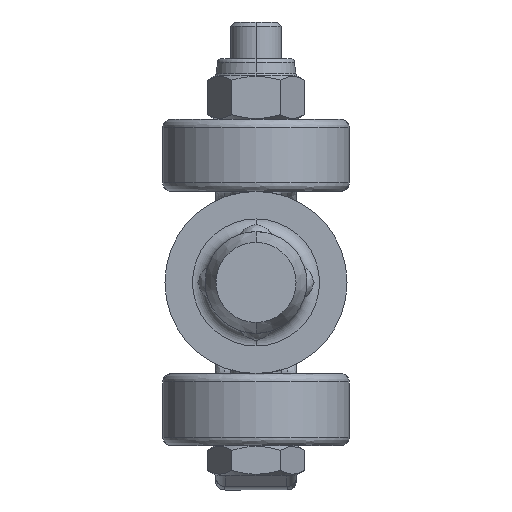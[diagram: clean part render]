
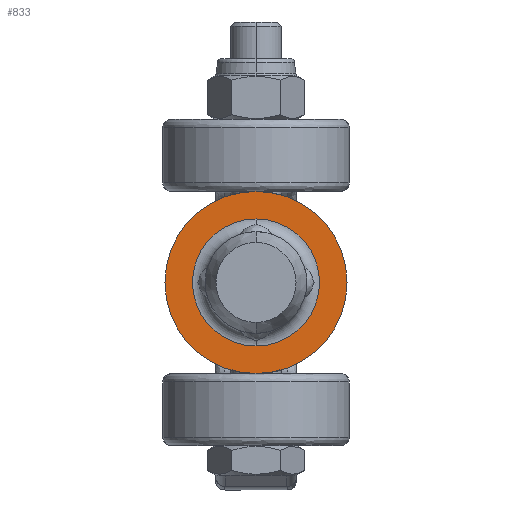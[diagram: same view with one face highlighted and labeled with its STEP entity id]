
A CAD part, front view. The second image highlights one B-rep face of the part: STEP entity #833.
In plain terms, the highlighted planar face has unit normal (0, -1, 0) as drawn and (-1, 0, 0) by its records, which use the part's own axes.
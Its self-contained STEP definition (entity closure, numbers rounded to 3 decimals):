
#51 = AXIS2_PLACEMENT_3D ( 'NONE', #80, #2386, #3093 ) ;
#80 = CARTESIAN_POINT ( 'NONE',  ( 0., 6.5, 0. ) ) ;
#171 = FACE_OUTER_BOUND ( 'NONE', #5708, .T. ) ;
#349 = AXIS2_PLACEMENT_3D ( 'NONE', #9019, #6874, #2985 ) ;
#546 = CARTESIAN_POINT ( 'NONE',  ( 0., 0., 0. ) ) ;
#578 = VERTEX_POINT ( 'NONE', #7642 ) ;
#661 = DIRECTION ( 'NONE',  ( -1., 0., 0. ) ) ;
#720 = AXIS2_PLACEMENT_3D ( 'NONE', #1071, #7043, #2639 ) ;
#758 = CARTESIAN_POINT ( 'NONE',  ( 0., 0., 0. ) ) ;
#833 = ADVANCED_FACE ( 'NONE', ( #171, #4672 ), #6931, .F. ) ;
#1071 = CARTESIAN_POINT ( 'NONE',  ( 0., 0., 0. ) ) ;
#1623 = CIRCLE ( 'NONE', #9718, 10.75 ) ;
#2017 = DIRECTION ( 'NONE',  ( 1., 0., 0. ) ) ;
#2361 = VERTEX_POINT ( 'NONE', #2943 ) ;
#2386 = DIRECTION ( 'NONE',  ( 1., 0., 0. ) ) ;
#2410 = EDGE_CURVE ( 'NONE', #578, #9595, #4613, .T. ) ;
#2639 = DIRECTION ( 'NONE',  ( 0., 0., 1. ) ) ;
#2943 = CARTESIAN_POINT ( 'NONE',  ( 0., 0., -7.5 ) ) ;
#2985 = DIRECTION ( 'NONE',  ( 0., 0., 1. ) ) ;
#3093 = DIRECTION ( 'NONE',  ( 0., 0., -1. ) ) ;
#3129 = EDGE_CURVE ( 'NONE', #9595, #578, #1623, .T. ) ;
#3652 = EDGE_CURVE ( 'NONE', #6763, #2361, #8458, .T. ) ;
#3770 = CARTESIAN_POINT ( 'NONE',  ( 0., 0., 7.5 ) ) ;
#4147 = AXIS2_PLACEMENT_3D ( 'NONE', #758, #661, #7617 ) ;
#4433 = CARTESIAN_POINT ( 'NONE',  ( 0., 0., -10.75 ) ) ;
#4613 = CIRCLE ( 'NONE', #349, 10.75 ) ;
#4672 = FACE_BOUND ( 'NONE', #6659, .T. ) ;
#4780 = ORIENTED_EDGE ( 'NONE', *, *, #6100, .F. ) ;
#4974 = CIRCLE ( 'NONE', #720, 7.5 ) ;
#5708 = EDGE_LOOP ( 'NONE', ( #6672, #9505 ) ) ;
#6100 = EDGE_CURVE ( 'NONE', #2361, #6763, #4974, .T. ) ;
#6659 = EDGE_LOOP ( 'NONE', ( #7900, #4780 ) ) ;
#6672 = ORIENTED_EDGE ( 'NONE', *, *, #2410, .F. ) ;
#6763 = VERTEX_POINT ( 'NONE', #3770 ) ;
#6874 = DIRECTION ( 'NONE',  ( 1., 0., 0. ) ) ;
#6931 = PLANE ( 'NONE',  #51 ) ;
#7043 = DIRECTION ( 'NONE',  ( -1., 0., 0. ) ) ;
#7617 = DIRECTION ( 'NONE',  ( 0., 0., 1. ) ) ;
#7642 = CARTESIAN_POINT ( 'NONE',  ( 0., 0., 10.75 ) ) ;
#7900 = ORIENTED_EDGE ( 'NONE', *, *, #3652, .F. ) ;
#8458 = CIRCLE ( 'NONE', #4147, 7.5 ) ;
#8944 = DIRECTION ( 'NONE',  ( 0., 0., 1. ) ) ;
#9019 = CARTESIAN_POINT ( 'NONE',  ( 0., 0., 0. ) ) ;
#9505 = ORIENTED_EDGE ( 'NONE', *, *, #3129, .F. ) ;
#9595 = VERTEX_POINT ( 'NONE', #4433 ) ;
#9718 = AXIS2_PLACEMENT_3D ( 'NONE', #546, #2017, #8944 ) ;
